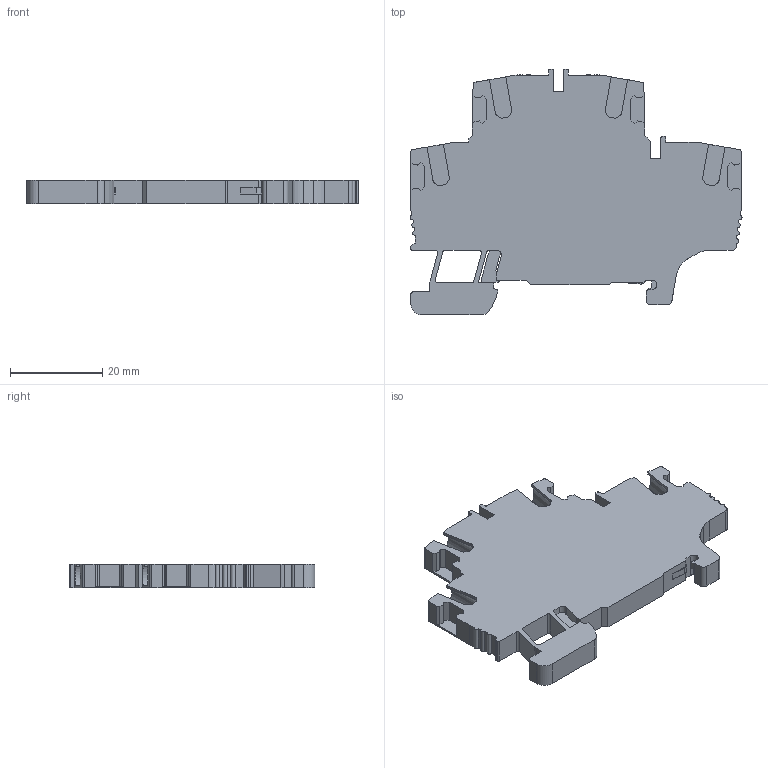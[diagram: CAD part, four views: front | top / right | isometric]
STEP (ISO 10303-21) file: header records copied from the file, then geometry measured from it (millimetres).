
FILE_DESCRIPTION(('Creo Elements/Direct Modeling STEP Export'),'2;1');
FILE_NAME('EFDE.2.stp','2019-06-13T10:48:37',(''),(''),'Creo Elements/Direct Modeling STEP processor for AP214 (Solid Model)','Creo Elements/Direct Modeling 20.1 10-Mar-2018 (C) Parametric Technology GmbH','');
FILE_SCHEMA(('AUTOMOTIVE_DESIGN { 1 0 10303 214 1 1 1 1 }'));
Length unit declared in the file: millimetre
Products named in the file (2): EFDE_2.prt; EFDE_2.stp
Assembly tree (1 placements, depth 2):
  EFDE_2.stp
    EFDE_2.prt
Bounding box: 71.96 x 53.3 x 5.2 mm (x, y, z)
Volume: 12436.7 mm3; surface area: 7734.7 mm2
Topology: 1 solids, 1 shells, 313 faces, 913 edges, 609 vertices
Faces by surface type: plane 227, cylinder 86
Entity records: 10865 total; most frequent: CARTESIAN_POINT 1833, ORIENTED_EDGE 1826, DIRECTION 1690, EDGE_CURVE 913, VECTOR 734, LINE 734, VERTEX_POINT 609, AXIS2_PLACEMENT_3D 478
